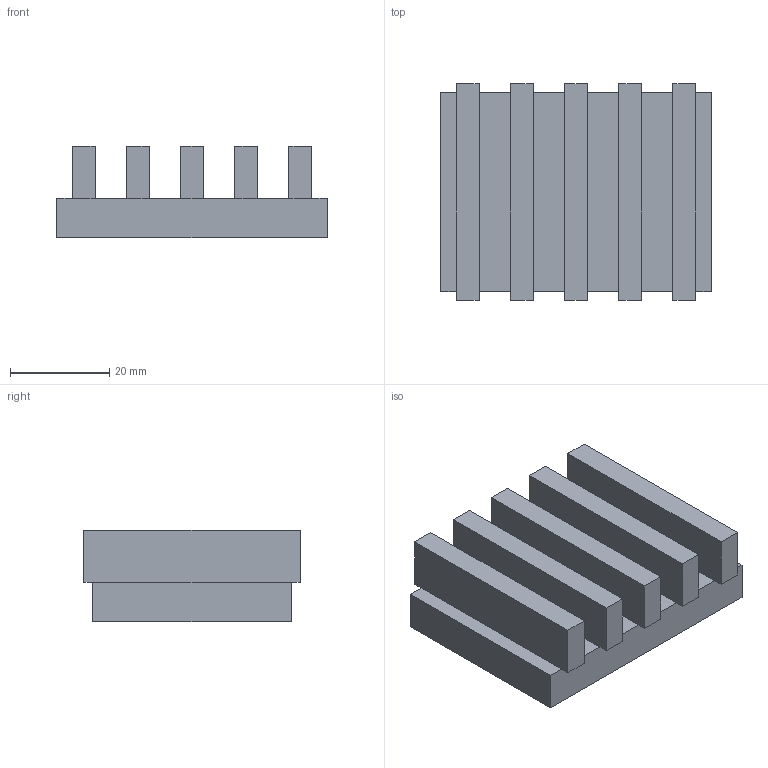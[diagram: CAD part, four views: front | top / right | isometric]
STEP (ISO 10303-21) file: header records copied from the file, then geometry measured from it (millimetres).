
FILE_DESCRIPTION(('Mechanical CAD reference from nasji.com'),'2;1');
FILE_NAME('NASJI.step','',(''),(''),'','NASJI distribution','');
FILE_SCHEMA(('AUTOMOTIVE_DESIGN { 1 0 10303 214 1 1 1 1 }'));
Length unit declared in the file: millimetre
Products named in the file (1): Open CASCADE STEP translator 7.8 118
Bounding box: 54.57 x 43.66 x 18.5 mm (x, y, z)
Volume: 28049 mm3; surface area: 11121.7 mm2
Topology: 1 solids, 1 shells, 46 faces, 112 edges, 68 vertices
Faces by surface type: plane 46
Entity records: 2762 total; most frequent: CARTESIAN_POINT 451, DIRECTION 430, LINE 336, VECTOR 336, ORIENTED_EDGE 224, PCURVE 224, DEFINITIONAL_REPRESENTATION 224, EDGE_CURVE 112
